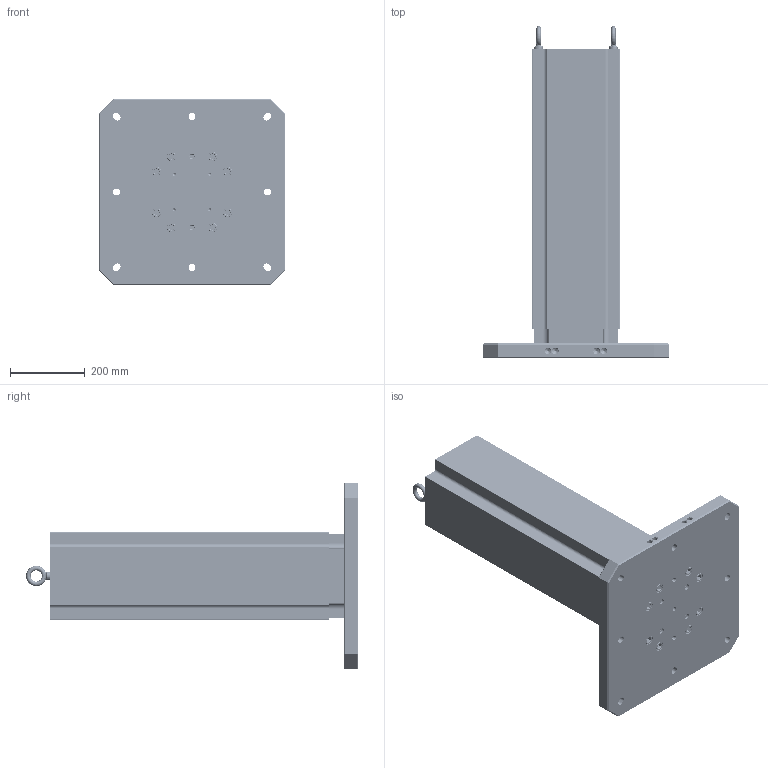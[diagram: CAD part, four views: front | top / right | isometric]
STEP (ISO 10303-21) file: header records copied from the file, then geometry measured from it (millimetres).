
FILE_DESCRIPTION (( 'STEP AP214' ), '1' );
FILE_NAME ('MTA-5004U-825.STEP', '2025-06-24T07:51:01', ( '' ), ( '' ), 'SwSTEP 2.0', 'SolidWorks 2024', '' );
FILE_SCHEMA (( 'AUTOMOTIVE_DESIGN' ));
Length unit declared in the file: millimetre
Products named in the file (8): RL96-14TC; HW.76172; M12X24MM.EB (McM 3040T15)_3040T15; MTA-5004U-825; HW.76452_dev_91290A835; RL96-5004BUA; MT-4787A_MT-4600A; 156x2.OR  -  O-RING, 156mm ID X 2mm THK, BUNA-N, 70A
Assembly tree (18 placements, depth 2):
  MTA-5004U-825
    RL96-5004BUA
    MT-4787A_MT-4600A
    156x2.OR  -  O-RING, 156mm ID X 2mm THK, BUNA-N, 70A
    RL96-14TC
    HW.76172  x4
    M12X24MM.EB (McM 3040T15)_3040T15  x2
    HW.76452_dev_91290A835  x8
Bounding box: 500 x 887.9 x 500 mm (x, y, z)
Volume: 35068112.1 mm3; surface area: 1921292.6 mm2
Topology: 18 solids, 18 shells, 2067 faces, 5534 edges, 3527 vertices
Faces by surface type: cylinder 1388, plane 317, cone 290, bspline 42, torus 30
Entity records: 33506 total; most frequent: CARTESIAN_POINT 13928, ORIENTED_EDGE 4182, DIRECTION 3969, EDGE_CURVE 2091, AXIS2_PLACEMENT_3D 1491, VERTEX_POINT 1332, VECTOR 987, LINE 987
